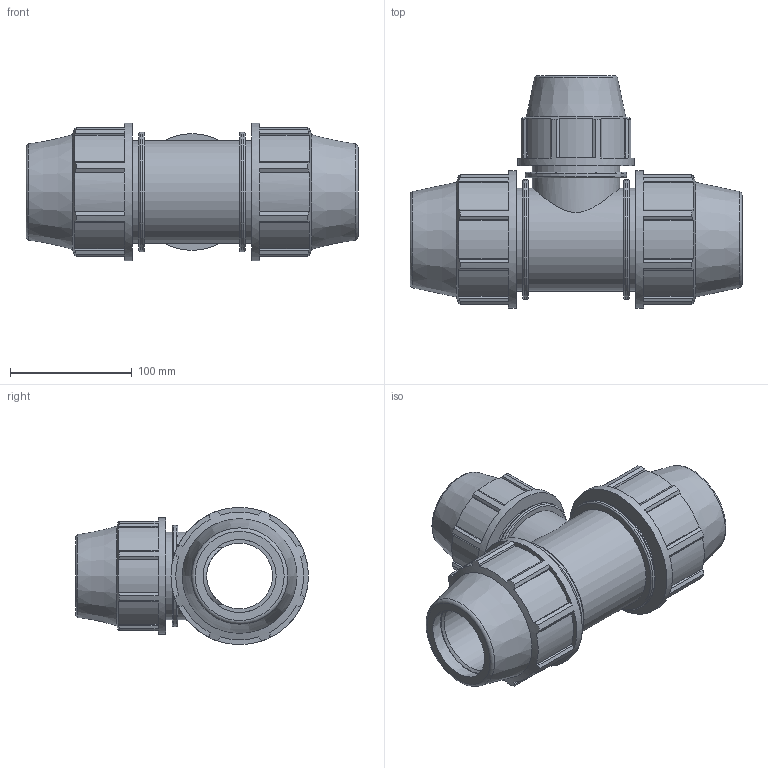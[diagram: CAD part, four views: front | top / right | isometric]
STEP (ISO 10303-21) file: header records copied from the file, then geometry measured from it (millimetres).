
FILE_DESCRIPTION(/* description */ ('PLASSON REDUCING TEE 2'''' - 1 1/2'''' - 2'''''),/* implementation_level */ '2;1');
FILE_NAME(/* name */ 'C:\Dropbox\KIMPROJECTS-Inventor 2019\99-16-3568-Processing Inch\ASTM Compression 2021\0734M0\0734M0020015.ipt.stp',/* time_stamp */ '2021-08-26T12:34:07+03:00',/* author */ ('Кирилл'),/* organization */ (''),/* preprocessor_version */ 'ST-DEVELOPER v17.2',/* originating_system */ 'Autodesk Inventor 2019',/* authorisation */ '');
FILE_SCHEMA (('AUTOMOTIVE_DESIGN { 1 0 10303 214 3 1 1 }'));
Length unit declared in the file: inch
Products named in the file (1): 0734M0020015
Bounding box: 273.05 x 191.39 x 113.03 mm (x, y, z)
Volume: 1473006.7 mm3; surface area: 208695 mm2
Topology: 1 solids, 1 shells, 201 faces, 596 edges, 410 vertices
Faces by surface type: plane 138, cylinder 42, cone 12, torus 9
Full cylindrical faces by diameter (mm): 43.29 x1, 48.1 x1, 54.09 x1, 60.1 x2, 72.009 x2, 83.53 x1, 84.772 x3, 96.012 x1, 98.336 x2, 113.03 x2
Entity records: 7275 total; most frequent: CARTESIAN_POINT 1531, ORIENTED_EDGE 1192, DIRECTION 1157, EDGE_CURVE 596, AXIS2_PLACEMENT_3D 418, VERTEX_POINT 410, LINE 321, VECTOR 321
